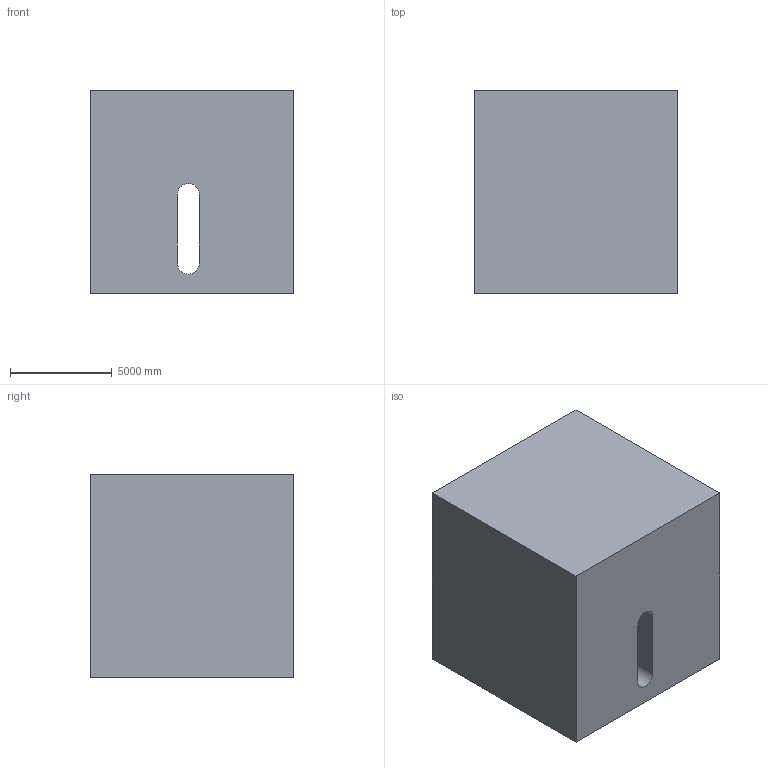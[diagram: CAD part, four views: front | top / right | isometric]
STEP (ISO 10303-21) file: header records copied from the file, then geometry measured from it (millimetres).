
FILE_DESCRIPTION (( 'STEP AP203' ), '1' );
FILE_NAME ('114.STEP', '2022-07-28T13:39:00', ( 'user' ), ( '' ), 'SwSTEP 2.0', 'SolidWorks 2021', '' );
FILE_SCHEMA (( 'CONFIG_CONTROL_DESIGN' ));
Length unit declared in the file: centimetre
Products named in the file (1): 114
Bounding box: 10000 x 10000 x 10000 mm (x, y, z)
Volume: 951591988790.8 mm3; surface area: 705901085 mm2
Topology: 1 solids, 1 shells, 15 faces, 36 edges, 24 vertices
Faces by surface type: plane 12, cylinder 3
Entity records: 517 total; most frequent: CARTESIAN_POINT 76, DIRECTION 74, ORIENTED_EDGE 72, EDGE_CURVE 36, LINE 30, VECTOR 30, VERTEX_POINT 24, AXIS2_PLACEMENT_3D 22
